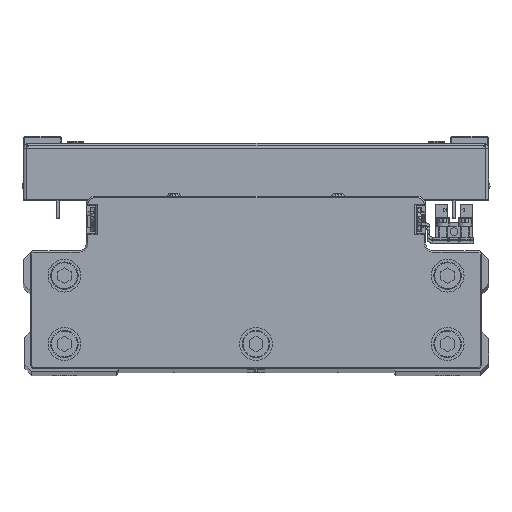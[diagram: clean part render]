
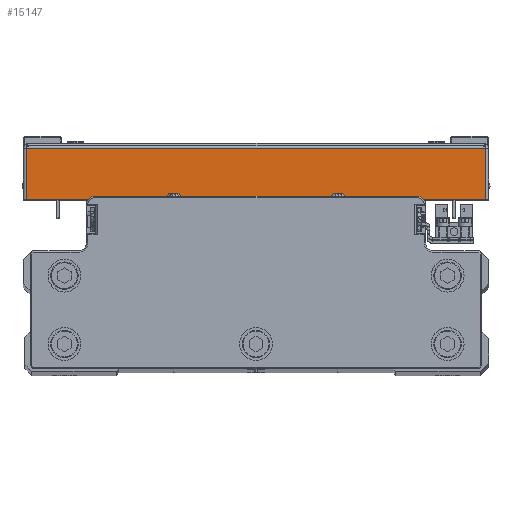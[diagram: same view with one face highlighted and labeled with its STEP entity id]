
A CAD part, top view. The second image highlights one B-rep face of the part: STEP entity #15147.
In plain terms, the highlighted planar face has unit normal (0, 0, 1) as drawn and (1, 0, 0) by its records, which use the part's own axes.
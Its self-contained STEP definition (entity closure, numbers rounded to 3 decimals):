
#738 = DIRECTION ( 'NONE',  ( 0., 1., 0. ) ) ;
#2164 = CARTESIAN_POINT ( 'NONE',  ( 110., 0., -83.929 ) ) ;
#2808 = DIRECTION ( 'NONE',  ( 0., 0., 1. ) ) ;
#3864 = EDGE_LOOP ( 'NONE', ( #30785, #32492, #13127, #27123 ) ) ;
#4395 = DIRECTION ( 'NONE',  ( 0., -1., 0. ) ) ;
#6518 = AXIS2_PLACEMENT_3D ( 'NONE', #21660, #35502, #4395 ) ;
#7795 = PLANE ( 'NONE',  #6518 ) ;
#12059 = LINE ( 'NONE', #25925, #26923 ) ;
#12507 = VERTEX_POINT ( 'NONE', #39512 ) ;
#13127 = ORIENTED_EDGE ( 'NONE', *, *, #38602, .T. ) ;
#13168 = EDGE_CURVE ( 'NONE', #12507, #42236, #18018, .T. ) ;
#13806 = VECTOR ( 'NONE', #738, 1000. ) ;
#15147 = ADVANCED_FACE ( 'NONE', ( #38909 ), #7795, .F. ) ;
#16035 = DIRECTION ( 'NONE',  ( 0., 1., 0. ) ) ;
#16863 = VECTOR ( 'NONE', #16035, 1000. ) ;
#18018 = LINE ( 'NONE', #31865, #13806 ) ;
#20067 = LINE ( 'NONE', #33909, #34433 ) ;
#20391 = VERTEX_POINT ( 'NONE', #27752 ) ;
#21660 = CARTESIAN_POINT ( 'NONE',  ( 110., 0., 0. ) ) ;
#25925 = CARTESIAN_POINT ( 'NONE',  ( 110., 1., 85. ) ) ;
#26717 = VERTEX_POINT ( 'NONE', #30827 ) ;
#26923 = VECTOR ( 'NONE', #39771, 1000. ) ;
#27123 = ORIENTED_EDGE ( 'NONE', *, *, #13168, .F. ) ;
#27752 = CARTESIAN_POINT ( 'NONE',  ( 110., 19.5, -83.929 ) ) ;
#29741 = EDGE_CURVE ( 'NONE', #26717, #20391, #33280, .T. ) ;
#30441 = CARTESIAN_POINT ( 'NONE',  ( 110., 19.5, 83.929 ) ) ;
#30785 = ORIENTED_EDGE ( 'NONE', *, *, #34419, .F. ) ;
#30827 = CARTESIAN_POINT ( 'NONE',  ( 110., 1., -83.929 ) ) ;
#31865 = CARTESIAN_POINT ( 'NONE',  ( 110., 0., 83.929 ) ) ;
#32492 = ORIENTED_EDGE ( 'NONE', *, *, #29741, .T. ) ;
#33280 = LINE ( 'NONE', #2164, #16863 ) ;
#33909 = CARTESIAN_POINT ( 'NONE',  ( 110., 19.5, 0. ) ) ;
#34419 = EDGE_CURVE ( 'NONE', #26717, #12507, #12059, .T. ) ;
#34433 = VECTOR ( 'NONE', #2808, 1000. ) ;
#35502 = DIRECTION ( 'NONE',  ( -1., 0., 0. ) ) ;
#38602 = EDGE_CURVE ( 'NONE', #20391, #42236, #20067, .T. ) ;
#38909 = FACE_OUTER_BOUND ( 'NONE', #3864, .T. ) ;
#39512 = CARTESIAN_POINT ( 'NONE',  ( 110., 1., 83.929 ) ) ;
#39771 = DIRECTION ( 'NONE',  ( 0., 0., 1. ) ) ;
#42236 = VERTEX_POINT ( 'NONE', #30441 ) ;
